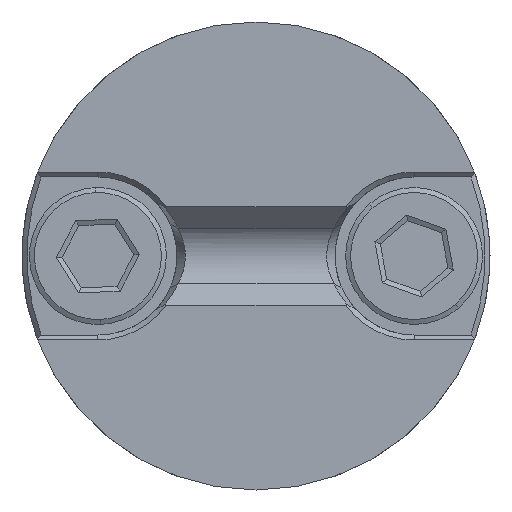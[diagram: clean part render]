
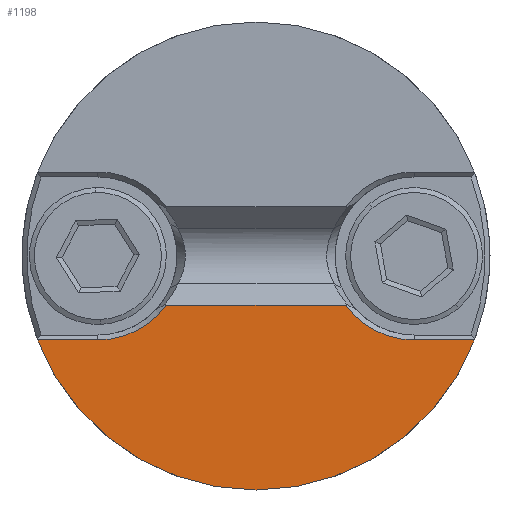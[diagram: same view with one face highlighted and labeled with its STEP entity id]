
A CAD part, front view. The second image highlights one B-rep face of the part: STEP entity #1198.
In plain terms, the highlighted planar face has unit normal (0, -1, 0).
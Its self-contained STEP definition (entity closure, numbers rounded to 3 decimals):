
#184 = CARTESIAN_POINT ( 'NONE',  ( 6.35, 0., 0. ) ) ;
#191 = DIRECTION ( 'NONE',  ( 0., 1., 0. ) ) ;
#227 = DIRECTION ( 'NONE',  ( 0., 1., 0. ) ) ;
#249 = CARTESIAN_POINT ( 'NONE',  ( -6.35, 0., 0. ) ) ;
#275 = DIRECTION ( 'NONE',  ( 0., 0., 1. ) ) ;
#298 = DIRECTION ( 'NONE',  ( 0., 0., 1. ) ) ;
#327 = VECTOR ( 'NONE', #843, 1000. ) ;
#328 = LINE ( 'NONE', #858, #327 ) ;
#400 = CIRCLE ( 'NONE', #1529, 3.373 ) ;
#412 = CIRCLE ( 'NONE', #1571, 3.373 ) ;
#483 = FACE_OUTER_BOUND ( 'NONE', #608, .T. ) ;
#608 = EDGE_LOOP ( 'NONE', ( #1224, #1219, #1227, #1217, #1215, #1239, #1242 ) ) ;
#644 = DIRECTION ( 'NONE',  ( -1., 0., 0. ) ) ;
#648 = CARTESIAN_POINT ( 'NONE',  ( 0., 0., -1.978 ) ) ;
#689 = DIRECTION ( 'NONE',  ( -1., 0., 0. ) ) ;
#690 = CARTESIAN_POINT ( 'NONE',  ( 0., 0., -3.373 ) ) ;
#831 = DIRECTION ( 'NONE',  ( 0., 0., 1. ) ) ;
#832 = DIRECTION ( 'NONE',  ( 0., 1., 0. ) ) ;
#843 = DIRECTION ( 'NONE',  ( -1., 0., 0. ) ) ;
#847 = CARTESIAN_POINT ( 'NONE',  ( 0., 0., 0. ) ) ;
#858 = CARTESIAN_POINT ( 'NONE',  ( 0., 0., -3.373 ) ) ;
#949 = CARTESIAN_POINT ( 'NONE',  ( 6.35, 0., -3.373 ) ) ;
#953 = CARTESIAN_POINT ( 'NONE',  ( -6.35, 0., -3.373 ) ) ;
#1070 = CARTESIAN_POINT ( 'NONE',  ( 0., 0., -9.398 ) ) ;
#1122 = CARTESIAN_POINT ( 'NONE',  ( 3.618, 0., -1.978 ) ) ;
#1123 = CARTESIAN_POINT ( 'NONE',  ( 8.772, 0., -3.373 ) ) ;
#1131 = CARTESIAN_POINT ( 'NONE',  ( -3.618, 0., -1.978 ) ) ;
#1134 = CARTESIAN_POINT ( 'NONE',  ( -8.772, 0., -3.373 ) ) ;
#1174 = DIRECTION ( 'NONE',  ( 0., 0., 1. ) ) ;
#1175 = DIRECTION ( 'NONE',  ( 0., 1., 0. ) ) ;
#1177 = CARTESIAN_POINT ( 'NONE',  ( 0., 0., 0. ) ) ;
#1198 = ADVANCED_FACE ( 'NONE', ( #483 ), #2042, .F. ) ;
#1215 = ORIENTED_EDGE ( 'NONE', *, *, #1488, .T. ) ;
#1217 = ORIENTED_EDGE ( 'NONE', *, *, #1346, .T. ) ;
#1219 = ORIENTED_EDGE ( 'NONE', *, *, #1367, .T. ) ;
#1224 = ORIENTED_EDGE ( 'NONE', *, *, #1440, .T. ) ;
#1227 = ORIENTED_EDGE ( 'NONE', *, *, #1481, .T. ) ;
#1239 = ORIENTED_EDGE ( 'NONE', *, *, #1463, .F. ) ;
#1242 = ORIENTED_EDGE ( 'NONE', *, *, #1622, .F. ) ;
#1346 = EDGE_CURVE ( 'NONE', #2005, #2351, #412, .T. ) ;
#1367 = EDGE_CURVE ( 'NONE', #2359, #2036, #400, .T. ) ;
#1440 = EDGE_CURVE ( 'NONE', #2034, #2359, #328, .T. ) ;
#1446 = AXIS2_PLACEMENT_3D ( 'NONE', #1177, #1175, #1174 ) ;
#1462 = AXIS2_PLACEMENT_3D ( 'NONE', #2048, #2037, #2035 ) ;
#1463 = EDGE_CURVE ( 'NONE', #2057, #1994, #1803, .T. ) ;
#1481 = EDGE_CURVE ( 'NONE', #2036, #2005, #1793, .T. ) ;
#1488 = EDGE_CURVE ( 'NONE', #2351, #1994, #1787, .T. ) ;
#1529 = AXIS2_PLACEMENT_3D ( 'NONE', #184, #191, #275 ) ;
#1571 = AXIS2_PLACEMENT_3D ( 'NONE', #249, #227, #298 ) ;
#1607 = AXIS2_PLACEMENT_3D ( 'NONE', #847, #832, #831 ) ;
#1622 = EDGE_CURVE ( 'NONE', #2034, #2057, #1910, .T. ) ;
#1767 = VECTOR ( 'NONE', #689, 1000. ) ;
#1787 = LINE ( 'NONE', #690, #1767 ) ;
#1793 = LINE ( 'NONE', #648, #1795 ) ;
#1795 = VECTOR ( 'NONE', #644, 1000. ) ;
#1803 = CIRCLE ( 'NONE', #1607, 9.398 ) ;
#1910 = CIRCLE ( 'NONE', #1446, 9.398 ) ;
#1994 = VERTEX_POINT ( 'NONE', #1134 ) ;
#2005 = VERTEX_POINT ( 'NONE', #1131 ) ;
#2034 = VERTEX_POINT ( 'NONE', #1123 ) ;
#2035 = DIRECTION ( 'NONE',  ( 0., 0., 1. ) ) ;
#2036 = VERTEX_POINT ( 'NONE', #1122 ) ;
#2037 = DIRECTION ( 'NONE',  ( 0., 1., 0. ) ) ;
#2042 = PLANE ( 'NONE',  #1462 ) ;
#2048 = CARTESIAN_POINT ( 'NONE',  ( 0., 0., 0. ) ) ;
#2057 = VERTEX_POINT ( 'NONE', #1070 ) ;
#2351 = VERTEX_POINT ( 'NONE', #953 ) ;
#2359 = VERTEX_POINT ( 'NONE', #949 ) ;
